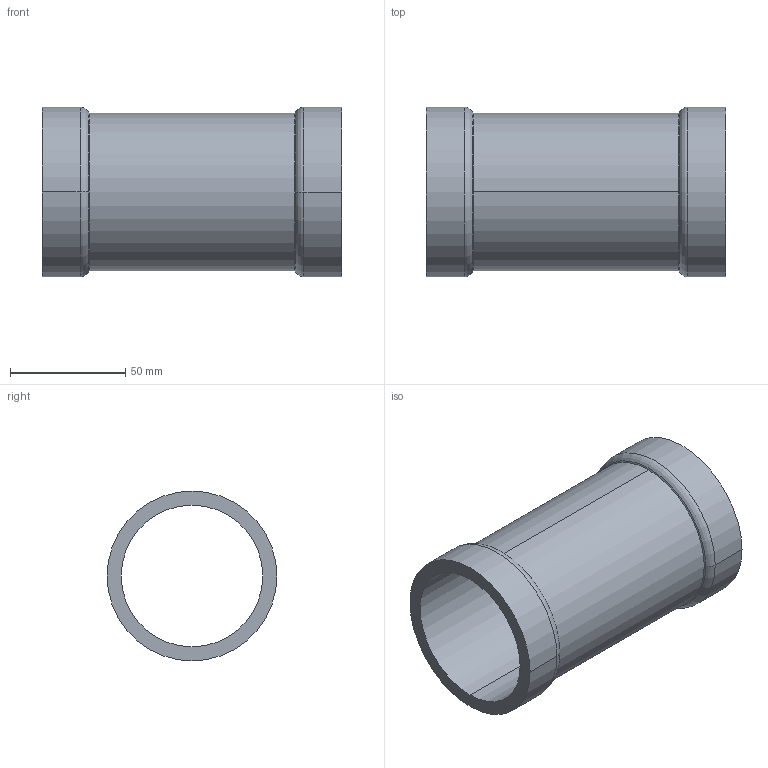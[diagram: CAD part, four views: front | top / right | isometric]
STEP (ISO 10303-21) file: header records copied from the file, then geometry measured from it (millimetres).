
FILE_DESCRIPTION(('Creo Elements/Direct Modeling STEP Export'),'2;1');
FILE_NAME('C9403_2.stp','2020-06-18T14:00:40',(''),(''),'PTC Creo Elements/Direct Modeling STEP processor for AP214 (Solid Model)','PTC Creo Elements/Direct Modeling 19.0C 15-Aug-2015 (C) Parametric Technology GmbH','');
FILE_SCHEMA(('AUTOMOTIVE_DESIGN { 1 0 10303 214 1 1 1 1 }'));
Length unit declared in the file: millimetre
Products named in the file (1): 9403_2
Bounding box: 130.2 x 73.8 x 73.8 mm (x, y, z)
Volume: 114007 mm3; surface area: 56893 mm2
Topology: 1 solids, 1 shells, 18 faces, 42 edges, 26 vertices
Faces by surface type: cylinder 8, cone 4, torus 4, plane 2
Entity records: 474 total; most frequent: ORIENTED_EDGE 84, DIRECTION 78, CARTESIAN_POINT 71, EDGE_CURVE 42, AXIS2_PLACEMENT_3D 33, VERTEX_POINT 26, EDGE_LOOP 20, FACE_OUTER_BOUND 18
